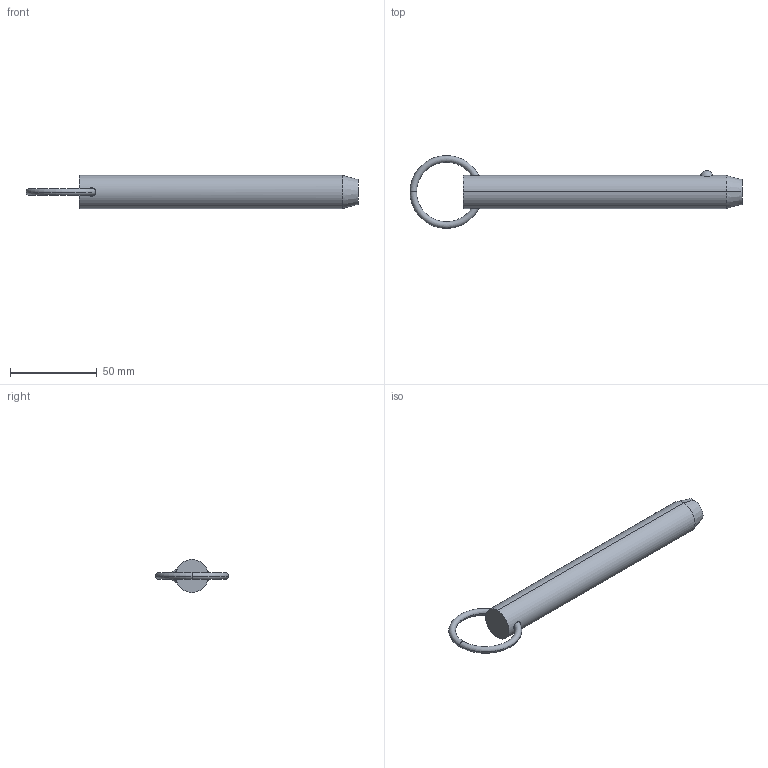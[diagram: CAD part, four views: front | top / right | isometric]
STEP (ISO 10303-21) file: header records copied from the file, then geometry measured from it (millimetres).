
FILE_DESCRIPTION (( 'STEP AP203' ), '1' );
FILE_NAME ('33010.W7550.step', '2024-11-01T10:44:26', ( '' ), ( '' ), 'SwSTEP 2.0', 'SolidWorks 2019', '' );
FILE_SCHEMA (( 'CONFIG_CONTROL_DESIGN' ));
Length unit declared in the file: millimetre
Products named in the file (3): 33010.W7550; Part2_33010.W7550; Part1_33010.W7550
Assembly tree (2 placements, depth 2):
  33010.W7550
    Part1_33010.W7550
    Part2_33010.W7550
Bounding box: 190.95 x 41.91 x 19.05 mm (x, y, z)
Volume: 46198.6 mm3; surface area: 11704.1 mm2
Topology: 2 solids, 2 shells, 16 faces, 31 edges, 18 vertices
Faces by surface type: torus 8, sphere 2, cone 2, cylinder 2, plane 2
Entity records: 893 total; most frequent: CARTESIAN_POINT 250, DIRECTION 88, ORIENTED_EDGE 62, AXIS2_PLACEMENT_3D 42, EDGE_CURVE 31, PERSON_AND_ORGANIZATION 26, CIRCLE 21, DATE_AND_TIME 19
